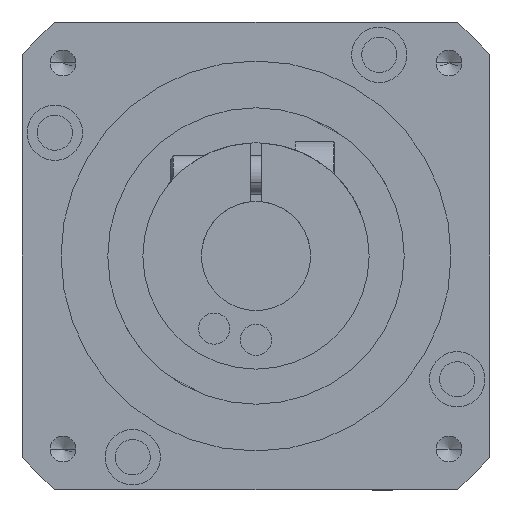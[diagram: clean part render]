
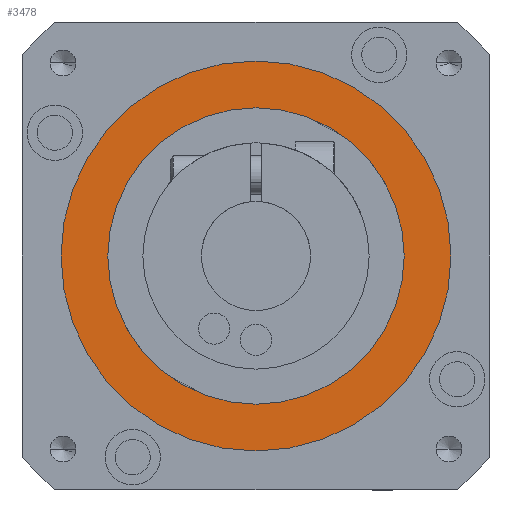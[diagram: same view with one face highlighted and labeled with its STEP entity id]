
A CAD part, front view. The second image highlights one B-rep face of the part: STEP entity #3478.
In plain terms, the highlighted planar face has unit normal (0, -1, 0).
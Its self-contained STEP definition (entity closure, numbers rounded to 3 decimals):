
#576 = CIRCLE ( 'NONE', #7515, 25. ) ;
#782 = DIRECTION ( 'NONE',  ( 0., 0., 1. ) ) ;
#798 = DIRECTION ( 'NONE',  ( 0., 1., 0. ) ) ;
#809 = CARTESIAN_POINT ( 'NONE',  ( 0., -36., 0. ) ) ;
#1003 = ORIENTED_EDGE ( 'NONE', *, *, #2360, .F. ) ;
#1136 = CIRCLE ( 'NONE', #7884, 19. ) ;
#1462 = CARTESIAN_POINT ( 'NONE',  ( 0., -36., 19. ) ) ;
#2101 = FACE_BOUND ( 'NONE', #4874, .T. ) ;
#2272 = CARTESIAN_POINT ( 'NONE',  ( 0., -36., 25. ) ) ;
#2286 = ORIENTED_EDGE ( 'NONE', *, *, #2625, .F. ) ;
#2308 = DIRECTION ( 'NONE',  ( 0., 0., 1. ) ) ;
#2311 = DIRECTION ( 'NONE',  ( 0., 1., 0. ) ) ;
#2313 = VERTEX_POINT ( 'NONE', #2668 ) ;
#2321 = CARTESIAN_POINT ( 'NONE',  ( 0., -36., 0. ) ) ;
#2360 = EDGE_CURVE ( 'NONE', #5494, #2380, #4125, .T. ) ;
#2380 = VERTEX_POINT ( 'NONE', #2272 ) ;
#2625 = EDGE_CURVE ( 'NONE', #2380, #5494, #576, .T. ) ;
#2668 = CARTESIAN_POINT ( 'NONE',  ( 0., -36., -19. ) ) ;
#3034 = CARTESIAN_POINT ( 'NONE',  ( 0., -36., -25. ) ) ;
#3478 = ADVANCED_FACE ( 'NONE', ( #7086, #2101 ), #7346, .F. ) ;
#4125 = CIRCLE ( 'NONE', #8000, 25. ) ;
#4194 = DIRECTION ( 'NONE',  ( 0., 0., 1. ) ) ;
#4429 = AXIS2_PLACEMENT_3D ( 'NONE', #4697, #4603, #4194 ) ;
#4603 = DIRECTION ( 'NONE',  ( 0., 1., 0. ) ) ;
#4697 = CARTESIAN_POINT ( 'NONE',  ( 0., -36., 0. ) ) ;
#4724 = ORIENTED_EDGE ( 'NONE', *, *, #5891, .T. ) ;
#4874 = EDGE_LOOP ( 'NONE', ( #7940, #4724 ) ) ;
#5118 = AXIS2_PLACEMENT_3D ( 'NONE', #7354, #7559, #7322 ) ;
#5129 = EDGE_LOOP ( 'NONE', ( #2286, #1003 ) ) ;
#5494 = VERTEX_POINT ( 'NONE', #3034 ) ;
#5603 = VERTEX_POINT ( 'NONE', #1462 ) ;
#5891 = EDGE_CURVE ( 'NONE', #2313, #5603, #1136, .T. ) ;
#6944 = DIRECTION ( 'NONE',  ( 0., 0., 1. ) ) ;
#7041 = DIRECTION ( 'NONE',  ( 0., 1., 0. ) ) ;
#7079 = CARTESIAN_POINT ( 'NONE',  ( 0., -36., 0. ) ) ;
#7086 = FACE_OUTER_BOUND ( 'NONE', #5129, .T. ) ;
#7190 = EDGE_CURVE ( 'NONE', #5603, #2313, #8104, .T. ) ;
#7322 = DIRECTION ( 'NONE',  ( 0., 0., 1. ) ) ;
#7346 = PLANE ( 'NONE',  #5118 ) ;
#7354 = CARTESIAN_POINT ( 'NONE',  ( 25., -36., 0. ) ) ;
#7515 = AXIS2_PLACEMENT_3D ( 'NONE', #809, #798, #782 ) ;
#7559 = DIRECTION ( 'NONE',  ( 0., 1., 0. ) ) ;
#7884 = AXIS2_PLACEMENT_3D ( 'NONE', #7079, #7041, #6944 ) ;
#7940 = ORIENTED_EDGE ( 'NONE', *, *, #7190, .T. ) ;
#8000 = AXIS2_PLACEMENT_3D ( 'NONE', #2321, #2311, #2308 ) ;
#8104 = CIRCLE ( 'NONE', #4429, 19. ) ;
